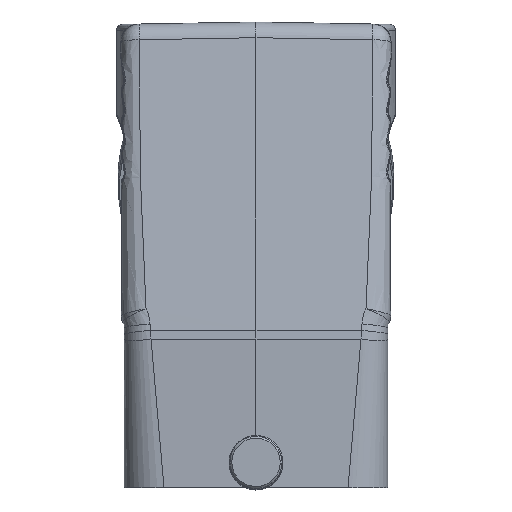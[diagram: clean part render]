
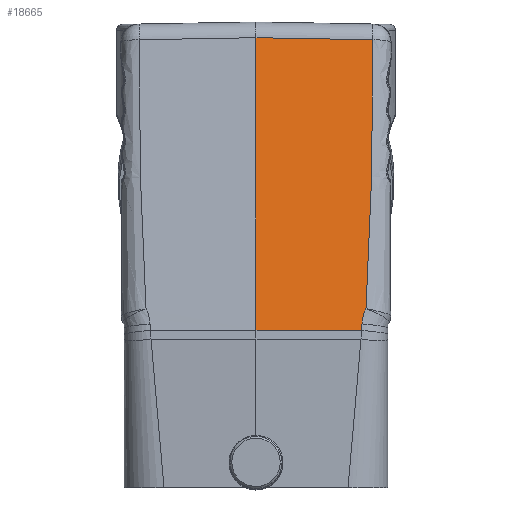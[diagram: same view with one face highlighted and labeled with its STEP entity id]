
A CAD part, left-side view. The second image highlights one B-rep face of the part: STEP entity #18665.
In plain terms, the highlighted planar face has unit normal (-0.989, -0.018, 0.145).
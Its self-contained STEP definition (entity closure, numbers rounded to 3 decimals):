
#261 = VECTOR ( 'NONE', #11495, 1000. ) ;
#282 = EDGE_CURVE ( 'NONE', #5615, #22805, #3611, .T. ) ;
#1644 = CARTESIAN_POINT ( 'NONE',  ( -17.719, 20.457, 91.585 ) ) ;
#2309 = CARTESIAN_POINT ( 'NONE',  ( -14.094, 19.858, 116.164 ) ) ;
#2426 = CARTESIAN_POINT ( 'NONE',  ( -13.665, 19.848, 119.081 ) ) ;
#3495 = CARTESIAN_POINT ( 'NONE',  ( -12.588, 19.847, 126.403 ) ) ;
#3611 = B_SPLINE_CURVE_WITH_KNOTS ( 'NONE', 3,
 ( #20575, #20684, #17965, #7380, #23186, #28220 ),
 .UNSPECIFIED., .F., .F.,
 ( 4, 2, 4 ),
 ( 0., 0.5, 1. ),
 .UNSPECIFIED. ) ;
#4700 = LINE ( 'NONE', #23672, #14051 ) ;
#5062 = CARTESIAN_POINT ( 'NONE',  ( -14.218, 19.862, 115.32 ) ) ;
#5168 = CARTESIAN_POINT ( 'NONE',  ( -13.43, 19.845, 120.677 ) ) ;
#5615 = VERTEX_POINT ( 'NONE', #18323 ) ;
#6094 = ORIENTED_EDGE ( 'NONE', *, *, #12429, .T. ) ;
#6655 = CARTESIAN_POINT ( 'NONE',  ( -19.511, 21.642, 79.542 ) ) ;
#6865 = CARTESIAN_POINT ( 'NONE',  ( -16.296, 20.115, 101.22 ) ) ;
#6991 = CARTESIAN_POINT ( 'NONE',  ( -15.679, 20.006, 105.403 ) ) ;
#7002 = ORIENTED_EDGE ( 'NONE', *, *, #23490, .T. ) ;
#7147 = CARTESIAN_POINT ( 'NONE',  ( -19.998, 38.899, 78.299 ) ) ;
#7204 = CARTESIAN_POINT ( 'NONE',  ( -16.772, 20.215, 97.999 ) ) ;
#7380 = CARTESIAN_POINT ( 'NONE',  ( -19.185, 21.3, 81.72 ) ) ;
#7656 = CARTESIAN_POINT ( 'NONE',  ( -14.234, 19.863, 115.214 ) ) ;
#9739 = CARTESIAN_POINT ( 'NONE',  ( -15.239, 19.944, 108.387 ) ) ;
#10183 = CARTESIAN_POINT ( 'NONE',  ( -14.326, 19.867, 114.585 ) ) ;
#11020 = CARTESIAN_POINT ( 'NONE',  ( -19.892, 38.899, 79.022 ) ) ;
#11495 = DIRECTION ( 'NONE',  ( -0.015, 1., 0.017 ) ) ;
#12134 = CARTESIAN_POINT ( 'NONE',  ( -15.939, 20.049, 103.642 ) ) ;
#12359 = CARTESIAN_POINT ( 'NONE',  ( -12.588, 19.847, 126.403 ) ) ;
#12402 = ORIENTED_EDGE ( 'NONE', *, *, #23533, .T. ) ;
#12428 = B_SPLINE_CURVE_WITH_KNOTS ( 'NONE', 3,
 ( #32821, #14957, #1644, #7204, #6865, #19835, #12134, #22564, #22674, #25106, #25333, #6991, #25218, #9739, #27933, #33154, #28044, #12464, #30776, #17914, #13030, #10183, #20874, #7656, #5062, #28389, #28163, #25677, #22907, #2309, #33722, #2426, #25801, #23257, #5168, #33606, #28630, #20758, #33377, #12802, #17801, #20636 ),
 .UNSPECIFIED., .F., .F.,
 ( 4, 1, 1, 1, 1, 1, 1, 2, 2, 1, 1, 1, 2, 2, 1, 1, 1, 1, 1, 1, 1, 2, 2, 1, 1, 1, 1, 1, 1, 2, 2, 4 ),
 ( 0., 0.25, 0.375, 0.437, 0.469, 0.484, 0.492, 0.496, 0.5, 0.562, 0.594, 0.609, 0.617, 0.625, 0.687, 0.719, 0.734, 0.742, 0.746, 0.748, 0.749, 0.75, 0.75, 0.812, 0.844, 0.859, 0.867, 0.871, 0.873, 0.874, 0.875, 1. ),
 .UNSPECIFIED. ) ;
#12429 = EDGE_CURVE ( 'NONE', #26939, #18849, #21853, .T. ) ;
#12464 = CARTESIAN_POINT ( 'NONE',  ( -15.027, 19.92, 109.83 ) ) ;
#12802 = CARTESIAN_POINT ( 'NONE',  ( -13.103, 19.841, 122.903 ) ) ;
#12850 = DIRECTION ( 'NONE',  ( -0.989, -0.017, 0.145 ) ) ;
#13030 = CARTESIAN_POINT ( 'NONE',  ( -14.449, 19.873, 113.755 ) ) ;
#13326 = EDGE_CURVE ( 'NONE', #26496, #28969, #14688, .T. ) ;
#13731 = FACE_OUTER_BOUND ( 'NONE', #28807, .T. ) ;
#14051 = VECTOR ( 'NONE', #29020, 1000. ) ;
#14476 = CARTESIAN_POINT ( 'NONE',  ( -19.692, 27.42, 79.008 ) ) ;
#14688 = B_SPLINE_CURVE_WITH_KNOTS ( 'NONE', 3,
 ( #20034, #14476, #27569, #32679 ),
 .UNSPECIFIED., .F., .F.,
 ( 4, 4 ),
 ( 0., 1. ),
 .UNSPECIFIED. ) ;
#14957 = CARTESIAN_POINT ( 'NONE',  ( -18.526, 20.737, 86.133 ) ) ;
#17801 = CARTESIAN_POINT ( 'NONE',  ( -12.834, 19.842, 124.732 ) ) ;
#17914 = CARTESIAN_POINT ( 'NONE',  ( -14.688, 19.888, 112.131 ) ) ;
#17965 = CARTESIAN_POINT ( 'NONE',  ( -19.313, 21.523, 80.876 ) ) ;
#18323 = CARTESIAN_POINT ( 'NONE',  ( -19.442, 21.617, 80.01 ) ) ;
#18665 = ADVANCED_FACE ( 'NONE', ( #13731 ), #30927, .T. ) ;
#18849 = VERTEX_POINT ( 'NONE', #33316 ) ;
#19061 = B_SPLINE_CURVE_WITH_KNOTS ( 'NONE', 3,
 ( #27257, #19734, #6655, #29869 ),
 .UNSPECIFIED., .F., .F.,
 ( 4, 4 ),
 ( 0., 1. ),
 .UNSPECIFIED. ) ;
#19403 = CARTESIAN_POINT ( 'NONE',  ( -19.591, 21.681, 79. ) ) ;
#19734 = CARTESIAN_POINT ( 'NONE',  ( -19.561, 21.663, 79.205 ) ) ;
#19835 = CARTESIAN_POINT ( 'NONE',  ( -16.058, 20.07, 102.834 ) ) ;
#20034 = CARTESIAN_POINT ( 'NONE',  ( -19.591, 21.681, 79. ) ) ;
#20575 = CARTESIAN_POINT ( 'NONE',  ( -19.442, 21.617, 80.01 ) ) ;
#20636 = CARTESIAN_POINT ( 'NONE',  ( -12.588, 19.847, 126.403 ) ) ;
#20684 = CARTESIAN_POINT ( 'NONE',  ( -19.377, 21.591, 80.446 ) ) ;
#20758 = CARTESIAN_POINT ( 'NONE',  ( -13.4, 19.844, 120.88 ) ) ;
#20874 = CARTESIAN_POINT ( 'NONE',  ( -14.265, 19.864, 115.004 ) ) ;
#21340 = EDGE_CURVE ( 'NONE', #28969, #18849, #4700, .T. ) ;
#21853 = LINE ( 'NONE', #3495, #261 ) ;
#22182 = CARTESIAN_POINT ( 'NONE',  ( -19.062, 20.955, 82.519 ) ) ;
#22564 = CARTESIAN_POINT ( 'NONE',  ( -15.879, 20.039, 104.046 ) ) ;
#22674 = CARTESIAN_POINT ( 'NONE',  ( -15.854, 20.035, 104.219 ) ) ;
#22805 = VERTEX_POINT ( 'NONE', #22182 ) ;
#22907 = CARTESIAN_POINT ( 'NONE',  ( -14.204, 19.862, 115.42 ) ) ;
#23186 = CARTESIAN_POINT ( 'NONE',  ( -19.122, 21.148, 82.127 ) ) ;
#23257 = CARTESIAN_POINT ( 'NONE',  ( -13.465, 19.845, 120.442 ) ) ;
#23305 = DIRECTION ( 'NONE',  ( -0.145, 0., -0.989 ) ) ;
#23450 = ORIENTED_EDGE ( 'NONE', *, *, #13326, .F. ) ;
#23490 = EDGE_CURVE ( 'NONE', #26496, #5615, #19061, .T. ) ;
#23533 = EDGE_CURVE ( 'NONE', #22805, #26939, #12428, .T. ) ;
#23672 = CARTESIAN_POINT ( 'NONE',  ( -19.998, 38.899, 78.299 ) ) ;
#23919 = AXIS2_PLACEMENT_3D ( 'NONE', #7147, #12850, #23305 ) ;
#23988 = ORIENTED_EDGE ( 'NONE', *, *, #282, .T. ) ;
#25106 = CARTESIAN_POINT ( 'NONE',  ( -15.837, 20.032, 104.334 ) ) ;
#25218 = CARTESIAN_POINT ( 'NONE',  ( -15.473, 19.974, 106.804 ) ) ;
#25333 = CARTESIAN_POINT ( 'NONE',  ( -15.828, 20.03, 104.39 ) ) ;
#25677 = CARTESIAN_POINT ( 'NONE',  ( -14.205, 19.862, 115.411 ) ) ;
#25801 = CARTESIAN_POINT ( 'NONE',  ( -13.533, 19.846, 119.979 ) ) ;
#26496 = VERTEX_POINT ( 'NONE', #19403 ) ;
#26939 = VERTEX_POINT ( 'NONE', #12359 ) ;
#27257 = CARTESIAN_POINT ( 'NONE',  ( -19.591, 21.681, 79. ) ) ;
#27569 = CARTESIAN_POINT ( 'NONE',  ( -19.792, 33.16, 79.015 ) ) ;
#27933 = CARTESIAN_POINT ( 'NONE',  ( -15.124, 19.931, 109.167 ) ) ;
#28044 = CARTESIAN_POINT ( 'NONE',  ( -15.043, 19.922, 109.718 ) ) ;
#28163 = CARTESIAN_POINT ( 'NONE',  ( -14.207, 19.862, 115.395 ) ) ;
#28220 = CARTESIAN_POINT ( 'NONE',  ( -19.062, 20.955, 82.519 ) ) ;
#28389 = CARTESIAN_POINT ( 'NONE',  ( -14.21, 19.862, 115.373 ) ) ;
#28630 = CARTESIAN_POINT ( 'NONE',  ( -13.405, 19.844, 120.846 ) ) ;
#28807 = EDGE_LOOP ( 'NONE', ( #7002, #23988, #12402, #6094, #33615, #23450 ) ) ;
#28969 = VERTEX_POINT ( 'NONE', #11020 ) ;
#29020 = DIRECTION ( 'NONE',  ( 0.145, 0., 0.989 ) ) ;
#29869 = CARTESIAN_POINT ( 'NONE',  ( -19.442, 21.617, 80.01 ) ) ;
#30776 = CARTESIAN_POINT ( 'NONE',  ( -14.884, 19.905, 110.799 ) ) ;
#30927 = PLANE ( 'NONE',  #23919 ) ;
#32679 = CARTESIAN_POINT ( 'NONE',  ( -19.892, 38.899, 79.022 ) ) ;
#32821 = CARTESIAN_POINT ( 'NONE',  ( -19.062, 20.955, 82.519 ) ) ;
#33154 = CARTESIAN_POINT ( 'NONE',  ( -15.076, 19.925, 109.498 ) ) ;
#33316 = CARTESIAN_POINT ( 'NONE',  ( -12.875, 38.899, 126.736 ) ) ;
#33377 = CARTESIAN_POINT ( 'NONE',  ( -13.397, 19.844, 120.899 ) ) ;
#33606 = CARTESIAN_POINT ( 'NONE',  ( -13.413, 19.845, 120.795 ) ) ;
#33615 = ORIENTED_EDGE ( 'NONE', *, *, #21340, .F. ) ;
#33722 = CARTESIAN_POINT ( 'NONE',  ( -13.912, 19.852, 117.403 ) ) ;
